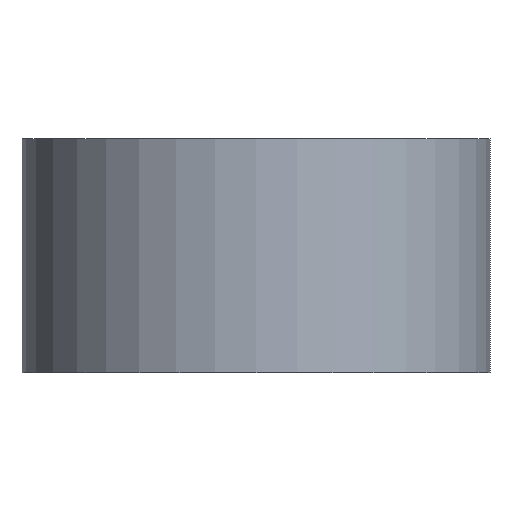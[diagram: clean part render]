
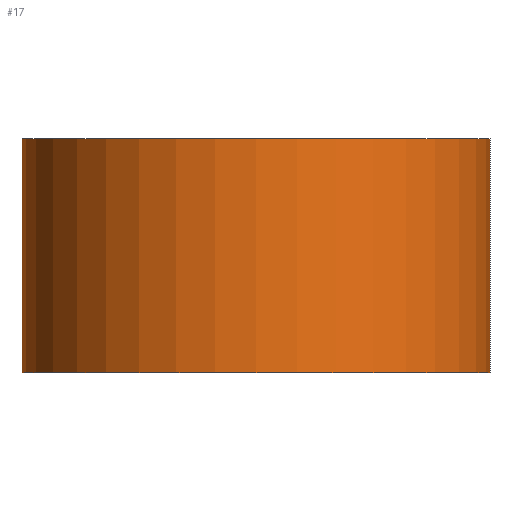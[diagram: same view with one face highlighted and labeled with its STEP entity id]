
A CAD part, front view. The second image highlights one B-rep face of the part: STEP entity #17.
In plain terms, the highlighted cylindrical face has radius 20 mm (diameter 40 mm), a full revolution.
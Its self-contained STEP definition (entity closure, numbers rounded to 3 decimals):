
#17 = ADVANCED_FACE('',(#18),#32,.T.);
#18 = FACE_BOUND('',#19,.F.);
#19 = EDGE_LOOP('',(#20,#50,#77,#78));
#20 = ORIENTED_EDGE('',*,*,#21,.T.);
#21 = EDGE_CURVE('',#22,#24,#26,.T.);
#22 = VERTEX_POINT('',#23);
#23 = CARTESIAN_POINT('',(20.,0.,0.));
#24 = VERTEX_POINT('',#25);
#25 = CARTESIAN_POINT('',(20.,0.,20.));
#26 = SEAM_CURVE('',#27,(#31,#43),.PCURVE_S1.);
#27 = LINE('',#28,#29);
#28 = CARTESIAN_POINT('',(20.,0.,0.));
#29 = VECTOR('',#30,1.);
#30 = DIRECTION('',(0.,0.,1.));
#31 = PCURVE('',#32,#37);
#32 = CYLINDRICAL_SURFACE('',#33,20.);
#33 = AXIS2_PLACEMENT_3D('',#34,#35,#36);
#34 = CARTESIAN_POINT('',(0.,0.,0.));
#35 = DIRECTION('',(-0.,-0.,-1.));
#36 = DIRECTION('',(1.,0.,-0.));
#37 = DEFINITIONAL_REPRESENTATION('',(#38),#42);
#38 = LINE('',#39,#40);
#39 = CARTESIAN_POINT('',(-0.,0.));
#40 = VECTOR('',#41,1.);
#41 = DIRECTION('',(-0.,-1.));
#42 = ( GEOMETRIC_REPRESENTATION_CONTEXT(2) 
PARAMETRIC_REPRESENTATION_CONTEXT() REPRESENTATION_CONTEXT('2D SPACE',''
  ) );
#43 = PCURVE('',#32,#44);
#44 = DEFINITIONAL_REPRESENTATION('',(#45),#49);
#45 = LINE('',#46,#47);
#46 = CARTESIAN_POINT('',(-6.283,0.));
#47 = VECTOR('',#48,1.);
#48 = DIRECTION('',(-0.,-1.));
#49 = ( GEOMETRIC_REPRESENTATION_CONTEXT(2) 
PARAMETRIC_REPRESENTATION_CONTEXT() REPRESENTATION_CONTEXT('2D SPACE',''
  ) );
#50 = ORIENTED_EDGE('',*,*,#51,.T.);
#51 = EDGE_CURVE('',#24,#24,#52,.T.);
#52 = SURFACE_CURVE('',#53,(#58,#65),.PCURVE_S1.);
#53 = CIRCLE('',#54,20.);
#54 = AXIS2_PLACEMENT_3D('',#55,#56,#57);
#55 = CARTESIAN_POINT('',(0.,0.,20.));
#56 = DIRECTION('',(0.,0.,1.));
#57 = DIRECTION('',(1.,0.,-0.));
#58 = PCURVE('',#32,#59);
#59 = DEFINITIONAL_REPRESENTATION('',(#60),#64);
#60 = LINE('',#61,#62);
#61 = CARTESIAN_POINT('',(-0.,-20.));
#62 = VECTOR('',#63,1.);
#63 = DIRECTION('',(-1.,0.));
#64 = ( GEOMETRIC_REPRESENTATION_CONTEXT(2) 
PARAMETRIC_REPRESENTATION_CONTEXT() REPRESENTATION_CONTEXT('2D SPACE',''
  ) );
#65 = PCURVE('',#66,#71);
#66 = PLANE('',#67);
#67 = AXIS2_PLACEMENT_3D('',#68,#69,#70);
#68 = CARTESIAN_POINT('',(0.,0.,20.));
#69 = DIRECTION('',(0.,0.,1.));
#70 = DIRECTION('',(1.,0.,-0.));
#71 = DEFINITIONAL_REPRESENTATION('',(#72),#76);
#72 = CIRCLE('',#73,20.);
#73 = AXIS2_PLACEMENT_2D('',#74,#75);
#74 = CARTESIAN_POINT('',(0.,0.));
#75 = DIRECTION('',(1.,0.));
#76 = ( GEOMETRIC_REPRESENTATION_CONTEXT(2) 
PARAMETRIC_REPRESENTATION_CONTEXT() REPRESENTATION_CONTEXT('2D SPACE',''
  ) );
#77 = ORIENTED_EDGE('',*,*,#21,.F.);
#78 = ORIENTED_EDGE('',*,*,#79,.F.);
#79 = EDGE_CURVE('',#22,#22,#80,.T.);
#80 = SURFACE_CURVE('',#81,(#86,#93),.PCURVE_S1.);
#81 = CIRCLE('',#82,20.);
#82 = AXIS2_PLACEMENT_3D('',#83,#84,#85);
#83 = CARTESIAN_POINT('',(0.,0.,0.));
#84 = DIRECTION('',(0.,0.,1.));
#85 = DIRECTION('',(1.,0.,-0.));
#86 = PCURVE('',#32,#87);
#87 = DEFINITIONAL_REPRESENTATION('',(#88),#92);
#88 = LINE('',#89,#90);
#89 = CARTESIAN_POINT('',(-0.,0.));
#90 = VECTOR('',#91,1.);
#91 = DIRECTION('',(-1.,0.));
#92 = ( GEOMETRIC_REPRESENTATION_CONTEXT(2) 
PARAMETRIC_REPRESENTATION_CONTEXT() REPRESENTATION_CONTEXT('2D SPACE',''
  ) );
#93 = PCURVE('',#94,#99);
#94 = PLANE('',#95);
#95 = AXIS2_PLACEMENT_3D('',#96,#97,#98);
#96 = CARTESIAN_POINT('',(0.,0.,0.));
#97 = DIRECTION('',(0.,0.,1.));
#98 = DIRECTION('',(1.,0.,-0.));
#99 = DEFINITIONAL_REPRESENTATION('',(#100),#104);
#100 = CIRCLE('',#101,20.);
#101 = AXIS2_PLACEMENT_2D('',#102,#103);
#102 = CARTESIAN_POINT('',(0.,0.));
#103 = DIRECTION('',(1.,0.));
#104 = ( GEOMETRIC_REPRESENTATION_CONTEXT(2) 
PARAMETRIC_REPRESENTATION_CONTEXT() REPRESENTATION_CONTEXT('2D SPACE',''
  ) );
